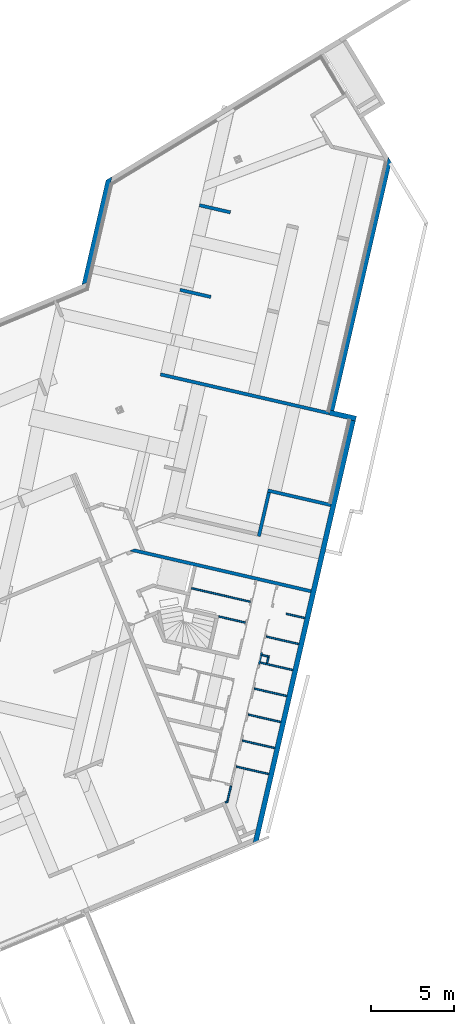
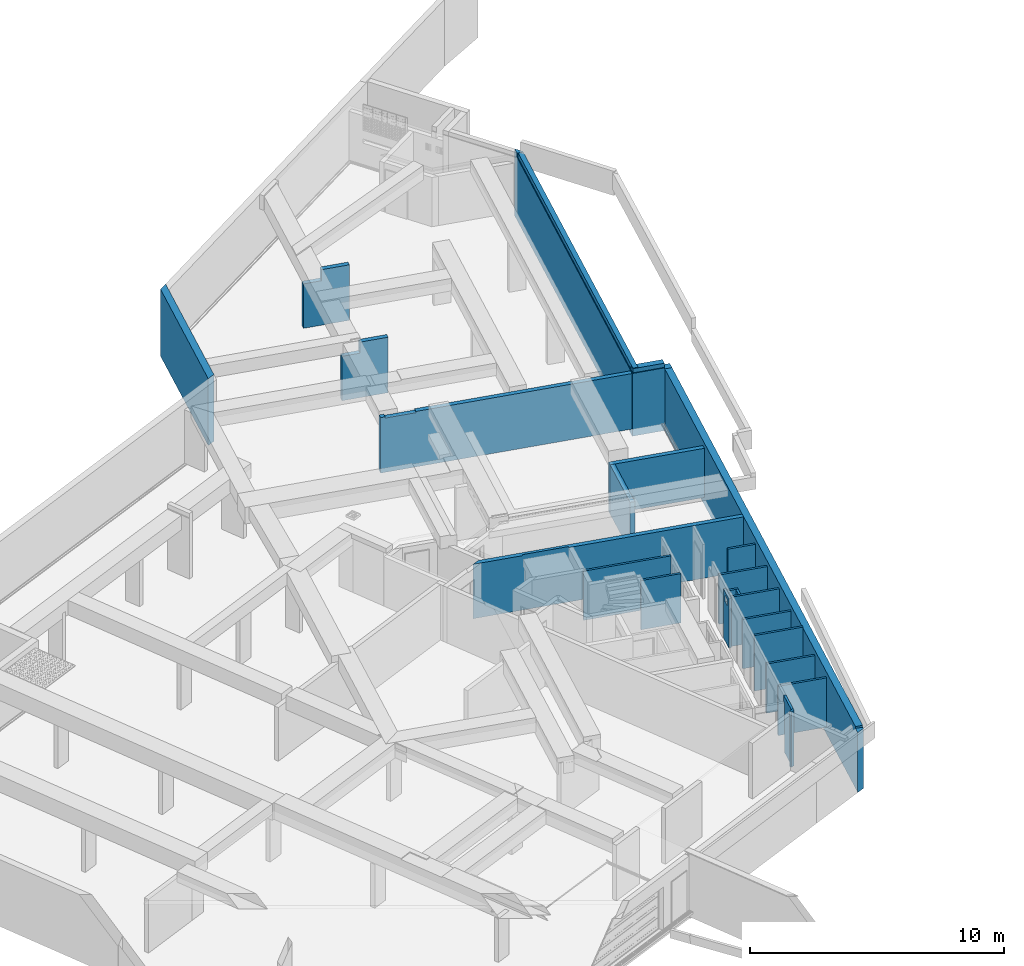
# One storey, part 11 of 20: 24 walls, 1 opening.
"""IFC2X3 building model written with IfcOpenShell, lengths in metres."""

from ifc_helpers import new_model, entity, si_unit, converted_unit, derived_unit, money_unit, direction, frame, origin_with_axes, place, context, subcontext, project, spatial, faceted_brep, material, type_object, element, save


model = new_model("IFC2X3")

# Units and contexts
model_context = context("Model", 3, precision=1e-05, world=origin_with_axes(), true_north=direction((0.0, 1.0)))
body_context = subcontext(model_context, "Body", "Model", "MODEL_VIEW")
ifc_project = project(units=[si_unit("LENGTHUNIT", "METRE"), si_unit("AREAUNIT", "SQUARE_METRE"), si_unit("VOLUMEUNIT", "CUBIC_METRE"), converted_unit("PLANEANGLEUNIT", "DEGREE", entity("IfcPlaneAngleMeasure", 0.0174532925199), si_unit("PLANEANGLEUNIT", "RADIAN"), dimensions=[0, 0, 0, 0, 0, 0, 0]), si_unit("SOLIDANGLEUNIT", "STERADIAN"), money_unit("EUR"), converted_unit("TIMEUNIT", "Year", entity("IfcTimeMeasure", 31556926.0), si_unit("TIMEUNIT", "SECOND"), dimensions=[0, 0, 1, 0, 0, 0, 0]), si_unit("MASSUNIT", "GRAM", prefix="KILO"), si_unit("THERMODYNAMICTEMPERATUREUNIT", "DEGREE_CELSIUS"), si_unit("LUMINOUSINTENSITYUNIT", "LUMEN"), si_unit("ENERGYUNIT", "JOULE", prefix="MEGA"), derived_unit("THERMALCONDUCTANCEUNIT", [(si_unit("POWERUNIT", "WATT"), 1), (si_unit("LENGTHUNIT", "METRE"), -1), (si_unit("THERMODYNAMICTEMPERATUREUNIT", "KELVIN"), -1)]), derived_unit("SPECIFICHEATCAPACITYUNIT", [(si_unit("ENERGYUNIT", "JOULE"), 1), (si_unit("MASSUNIT", "GRAM", prefix="KILO"), -1), (si_unit("THERMODYNAMICTEMPERATUREUNIT", "KELVIN"), -1)]), derived_unit("MASSDENSITYUNIT", [(si_unit("MASSUNIT", "GRAM", prefix="KILO"), 1), (si_unit("VOLUMEUNIT", "CUBIC_METRE"), -1)])], contexts=[model_context])

# Site, building, storey
site_placement = place(None, origin_with_axes())
site = spatial("IfcSite", under=ifc_project, at=site_placement, Name="Site", CompositionType="ELEMENT")
building_placement = place(site_placement, origin_with_axes())
building = spatial("IfcBuilding", under=site, at=building_placement, Name="Bâtiment", CompositionType="ELEMENT")
storey_placement = place(building_placement, frame((0.0, 0.0, -2.9), z_axis=(0.0, 0.0, 1.0), x_axis=(1.0, 0.0, 0.0)))
storey = spatial("IfcBuildingStorey", under=building, at=storey_placement, Name="Sous-sol", CompositionType="ELEMENT", Elevation=-2.9)

# Walls
ifc_material_1 = material(Name="Béton")
wall_type_1 = type_object("IfcWallType", Name="Béton 200", PredefinedType="USERDEFINED")
wall_1_placement = place(storey_placement, frame((-0.376831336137, -6.47894701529, 0.0), z_axis=(0.0, 0.0, 1.0), x_axis=(-0.974387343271, 0.224876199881, 0.0)))
element("IfcWall", 1, at=wall_1_placement, inside=storey, type_object=wall_type_1, material=ifc_material_1, Name="M_Ext-007", ObjectType="SOLIDWALL", context=body_context, shape_type="Brep", body=[
    faceted_brep([(10.8819027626, -0.2, 0.0), (10.8819027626, -0.2, 2.62), (-3.08194358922e-09, -0.2, 2.62), (-3.08194358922e-09, -0.2, 0.0), (11.1620626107, 0.0, 0.0), (11.1620626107, 0.0, 2.62), (7.22196671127, 1.78838543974e-09, 2.62), (-3.08219760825e-09, 0.0, 2.62), (9.12196671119, 0.0, 2.62), (9.12196622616, -0.000959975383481, 2.62), (-3.08219738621e-09, 0.0, 0.0), (9.12196671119, 0.0, 2.67), (7.22196671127, 1.78838543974e-09, 2.67), (9.12196622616, -0.000959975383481, 2.67)], [[[0, 1, 2, 3]], [[4, 5, 1, 0]], [[6, 7, 2, 1, 5, 8, 9]], [[3, 2, 7, 10]], [[4, 0, 3, 10]], [[11, 8, 5, 4, 10, 7, 6, 12]], [[8, 11, 13, 9]], [[9, 13, 12, 6]], [[12, 13, 11]]]),
])
wall_2_placement = place(storey_placement, frame((-2.92712561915, -0.243008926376, 0.0), z_axis=(0.0, 0.0, 1.0), x_axis=(0.974387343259, -0.224876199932, 0.0)))
element("IfcWall", 2, at=wall_2_placement, inside=storey, type_object=wall_type_1, material=ifc_material_1, Name="M_Ext-007", ObjectType="SOLIDWALL", context=body_context, shape_type="Brep", body=[
    faceted_brep([(0.0, 0.0, 2.37), (0.0, -0.2, 2.37), (3.8872885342, -0.2, 2.37), (3.88728853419, 0.0, 2.37), (0.0, 0.0, 0.0), (0.0, -0.2, 0.0), (3.8872885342, -0.2, 0.0), (3.88728853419, 0.0, 0.0)], [[[0, 1, 2, 3]], [[0, 4, 5, 1]], [[1, 5, 6, 2]], [[6, 7, 3, 2]], [[4, 0, 3, 7]], [[5, 4, 7, 6]]]),
])
wall_3_placement = place(storey_placement, frame((-2.92712561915, -0.243008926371, 0.0), z_axis=(0.0, 0.0, 1.0), x_axis=(-0.224876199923, -0.974387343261, 0.0)))
element("IfcWall", 3, at=wall_3_placement, inside=storey, type_object=wall_type_1, material=ifc_material_1, Name="M_Ext-007", ObjectType="SOLIDWALL", context=body_context, shape_type="Brep", body=[
    faceted_brep([(0.200000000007, 0.2, 0.0), (2.89999999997, 0.2, 0.0), (2.89999999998, 0.0, 0.0), (0.200000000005, 0.0, 0.0), (0.200000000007, 0.2, 2.37), (2.89999999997, 0.2, 2.37), (2.89999999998, 0.0, 2.37), (0.200000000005, 0.0, 2.37)], [[[0, 1, 2, 3]], [[4, 5, 1, 0]], [[6, 2, 1, 5]], [[3, 2, 6, 7]], [[7, 4, 0, 3]], [[7, 6, 5, 4]]]),
])
wall_4_placement = place(storey_placement, frame((-8.2314233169, 11.5912253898, 0.0), z_axis=(0.0, 0.0, 1.0), x_axis=(0.974387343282, -0.224876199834, 0.0)))
element("IfcWall", 4, at=wall_4_placement, inside=storey, type_object=wall_type_1, material=ifc_material_1, Name="M_Ext-007", ObjectType="SOLIDWALL", context=body_context, shape_type="Brep", body=[
    faceted_brep([(0.0, 0.2, 0.0), (0.0, 0.2, 2.14), (0.746580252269, 0.2, 2.14), (0.74658024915, 0.2, 2.3), (0.749999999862, 0.2, 2.3), (0.749999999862, 0.2, 2.55), (1.90163599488, 0.2, 2.55), (1.90163599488, 0.2, 0.0), (0.0, 0.0, 0.0), (0.0, 0.0, 2.14), (0.746711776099, 0.0, 2.14), (0.74671177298, 0.0, 2.3), (0.749999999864, 0.0, 2.3), (0.749999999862, 0.199242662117, 2.67), (0.749999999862, 0.199242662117, 2.55), (0.749999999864, 0.0, 2.67), (1.90163599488, 0.0, 0.0), (1.90163599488, 0.2, 2.67), (1.90163599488, 0.0, 2.67)], [[[0, 1, 2, 3, 4, 5, 6, 7]], [[8, 9, 1, 0]], [[10, 2, 1, 9]], [[10, 11, 3, 2]], [[4, 3, 11, 12]], [[13, 14, 5, 4, 12, 15]], [[6, 5, 14]], [[16, 7, 6, 17, 18]], [[16, 8, 0, 7]], [[11, 10, 9, 8, 16, 18, 15, 12]], [[6, 14, 13, 17]], [[17, 13, 15, 18]]]),
])
wall_5_placement = place(storey_placement, frame((-7.06056441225, 16.6645506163, 0.0), z_axis=(0.0, 0.0, 1.0), x_axis=(0.974387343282, -0.224876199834, 0.0)))
element("IfcWall", 5, at=wall_5_placement, inside=storey, type_object=wall_type_1, material=ifc_material_1, Name="M_Ext-007", ObjectType="SOLIDWALL", context=body_context, shape_type="Brep", body=[
    faceted_brep([(0.0, 0.2, 0.0), (0.0, 0.2, 2.14), (0.743156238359, 0.2, 2.14), (0.743156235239, 0.2, 2.67), (0.743160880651, 0.2, 2.55), (1.90163599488, 0.2, 2.55), (1.90163599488, 0.2, 0.0), (0.0, 0.0, 0.0), (0.0, 0.0, 2.14), (0.743287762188, 0.0, 2.14), (0.743287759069, 0.0, 2.67), (0.743156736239, 0.199238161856, 2.67), (0.743156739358, 0.199238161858, 2.55), (1.90163599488, 0.2, 2.67), (1.90163599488, 0.0, 2.67), (1.90163599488, 0.0, 0.0)], [[[0, 1, 2, 3, 4, 5, 6]], [[7, 8, 1, 0]], [[9, 2, 1, 8]], [[10, 11, 3, 2, 9]], [[4, 3, 11, 12]], [[12, 5, 4]], [[13, 14, 15, 6, 5]], [[0, 6, 15, 7]], [[10, 9, 8, 7, 15, 14]], [[13, 11, 10, 14]], [[11, 13, 5, 12]]]),
])
wall_6_placement = place(storey_placement, frame((-9.40085102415, 6.52410153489, 0.0), z_axis=(0.0, 0.0, 1.0), x_axis=(0.974388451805, -0.224871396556, 0.0)))
element("IfcWall", 6, at=wall_6_placement, inside=storey, type_object=wall_type_1, material=ifc_material_1, Name="M_Ext-007", ObjectType="SOLIDWALL", context=body_context, shape_type="Brep", body=[
    faceted_brep([(8.47811900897, 0.2, 2.55), (8.47811900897, 0.2, 2.3), (9.17811900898, 0.2, 2.3), (9.17811900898, 0.2, 2.67), (10.373078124, 0.2, 2.67), (10.373078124, 0.2, 0.0), (0.0, 0.2, 0.0), (9.04829104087e-07, 0.200000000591, 2.14), (0.377833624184, 0.2, 2.14), (0.377833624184, 0.2, 2.61), (1.4616061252, 0.2, 2.61), (1.4616061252, 0.2, 2.67), (4.92196615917, 0.2, 2.67), (4.92196615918, 0.2, 2.55), (5.37718628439, 0.2, 2.55), (5.37718628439, 0.2, 2.2), (6.0771862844, 0.2, 2.2), (6.0771862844, 0.2, 2.55), (8.47811900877, 0.199958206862, 2.3), (8.47811900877, 0.199958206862, 2.55), (9.17811900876, 0.19995475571, 2.3), (9.17811900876, 0.19995475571, 2.67), (8.47811900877, 0.199958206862, 2.67), (6.07718628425, 0.199970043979, 2.67), (5.37718628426, 0.199973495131, 2.67), (1.46150408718, 0.0, 2.67), (10.373078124, 0.0, 2.67), (10.373078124, 0.0, 0.0), (0.0, 0.0, 0.0), (0.0, 0.0, 2.67), (9.04829104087e-07, 0.200000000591, 2.67), (1.06578756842e-06, 0.199753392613, 2.14), (1.06578756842e-06, 0.199753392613, 2.67), (0.190000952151, 0.199877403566, 2.67), (0.190000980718, 0.199877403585, 2.61), (0.18999999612, 0.0, 2.61), (1.46150408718, 0.0, 2.61), (5.37718628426, 0.199973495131, 2.55), (5.37718628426, 0.199973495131, 2.2), (6.07718628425, 0.199970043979, 2.2), (6.07718628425, 0.199970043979, 2.55), (0.189999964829, 0.0, 2.67)], [[[0, 1, 2, 3, 4, 5, 6, 7, 8, 9, 10, 11, 12, 13, 14, 15, 16, 17]], [[18, 1, 0, 19]], [[20, 2, 1, 18]], [[20, 21, 3, 2]], [[3, 21, 22, 23, 24, 12, 11, 25, 26, 4]], [[4, 26, 27, 5]], [[27, 28, 6, 5]], [[6, 28, 29, 30, 7]], [[8, 7, 31]], [[31, 32, 33, 34, 9, 8]], [[35, 36, 10, 9, 34]], [[10, 36, 25, 11]], [[13, 12, 24, 37]], [[14, 13, 37]], [[37, 38, 15, 14]], [[38, 39, 16, 15]], [[16, 39, 40, 17]], [[40, 19, 0, 17]], [[23, 22, 21, 20, 18, 19, 40, 39, 38, 37, 24]], [[29, 28, 27, 26, 25, 36, 35, 41]], [[29, 41, 33, 32, 30]], [[30, 32, 31, 7]], [[33, 41, 35, 34]]]),
])
wall_type_2 = type_object("IfcWallType", Name="Béton 250", PredefinedType="USERDEFINED")
wall_7_placement = place(storey_placement, frame((4.1967963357, 19.2964188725, -0.35), z_axis=(0.0, 0.0, 1.0), x_axis=(-0.224876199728, -0.974387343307, 0.0)))
element("IfcWall", 7, at=wall_7_placement, inside=storey, type_object=wall_type_2, material=ifc_material_1, Name="Voile projeté béton par passes alternées", ObjectType="SOLIDWALL", context=body_context, shape_type="Brep", body=[
    faceted_brep([(0.0, 0.0350000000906, 3.25), (15.4679716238, 0.0349999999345, 3.25), (15.4679716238, 0.25, 3.25), (0.0, 0.25, 3.25), (15.2029716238, 0.0349999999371, 3.22), (15.4679716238, 0.0349999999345, 3.22), (0.0, 0.0350000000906, 3.22), (-0.0356879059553, 0.035000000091, 3.22), (-0.0356879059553, 0.035000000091, 3.02), (15.2029716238, 0.0349999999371, 3.02), (15.4679716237, 0.25, 3.22), (15.2029716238, 0.25, 3.22), (15.2029716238, 0.25, 0.0), (-0.101734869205, 0.25, 0.0), (-0.101734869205, 0.25, 3.22), (0.0, 0.25, 3.22), (-0.0710988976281, 0.0, 3.22), (-0.358038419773, 0.0, 3.22), (-0.0710988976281, 0.0, 3.02), (15.2029716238, 0.0, 3.02), (15.2029716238, 0.0, 0.0), (-0.358038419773, 0.0, 0.0)], [[[0, 1, 2, 3]], [[4, 5, 1, 0, 6, 7, 8, 9]], [[5, 10, 2, 1]], [[3, 2, 10, 11, 12, 13, 14, 15]], [[15, 6, 0, 3]], [[11, 10, 5, 4]], [[16, 7, 6, 15, 14, 17]], [[7, 16, 18, 8]], [[8, 18, 19, 9]], [[4, 9, 19, 20, 12, 11]], [[21, 13, 12, 20]], [[14, 13, 21, 17]], [[19, 18, 16, 17, 21, 20]]]),
])
ifc_material_2 = material(Name="Parpaing 10cm")
wall_type_3 = type_object("IfcWallType", Name="Parpaing 10cm 100", PredefinedType="USERDEFINED")
wall_8_placement = place(storey_placement, frame((-3.50245051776, -10.6837662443, 0.0), z_axis=(0.0, 0.0, 1.0), x_axis=(0.974387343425, -0.224876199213, 0.0)))
element("IfcWall", 8, at=wall_8_placement, inside=storey, type_object=wall_type_3, material=ifc_material_2, Name="Parpaing 10x50x20", ObjectType="PARTITIONING", context=body_context, shape_type="Brep", body=[
    faceted_brep([(2.10000000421, 0.1, 2.37), (2.10000000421, 0.1, 0.0), (0.0999999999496, 0.1, 0.0), (0.0999999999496, 0.1, 2.37), (2.10000000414, 0.0, 2.37), (2.10000000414, 0.0, 0.0), (0.0999999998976, 0.0, 0.0), (0.0999999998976, 0.0, 2.37)], [[[0, 1, 2, 3]], [[4, 5, 1, 0]], [[1, 5, 6, 2]], [[2, 6, 7, 3]], [[4, 0, 3, 7]], [[5, 4, 7, 6]]]),
])
wall_9_placement = place(storey_placement, frame((-6.06674905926, -7.80063914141, 0.0), z_axis=(0.0, 0.0, 1.0), x_axis=(0.974387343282, -0.224876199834, 0.0)))
element("IfcWall", 9, at=wall_9_placement, inside=storey, type_object=wall_type_3, material=ifc_material_2, Name="Parpaing 10x50x20", ObjectType="PARTITIONING", context=body_context, shape_type="Brep", body=[
    faceted_brep([(1.83696671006, 0.0, 2.37), (1.83696671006, 0.0, 0.0), (0.2, 0.0, 0.0), (0.2, 0.0, 2.37), (1.8369667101, -0.1, 2.37), (1.8369667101, -0.1, 0.0), (0.2, -0.1, 0.0), (0.2, -0.1, 2.37)], [[[0, 1, 2, 3]], [[4, 5, 1, 0]], [[1, 5, 6, 2]], [[2, 6, 7, 3]], [[4, 0, 3, 7]], [[5, 4, 7, 6]]]),
])
wall_10_placement = place(storey_placement, frame((-5.51181280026, -19.0058905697, 0.0), z_axis=(0.0, 0.0, 1.0), x_axis=(0.923701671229, 0.383112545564, 0.0)))
element("IfcWall", 10, at=wall_10_placement, inside=storey, type_object=wall_type_3, material=ifc_material_2, Name="Parpaing 10x50x20", ObjectType="PARTITIONING", context=body_context, shape_type="Brep", body=[
    faceted_brep([(0.0, 0.0, 0.0), (0.0, 0.0, 2.67), (0.106217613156, 0.0, 2.67), (0.229084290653, 0.0, 2.67), (0.229084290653, 0.0, 0.0), (0.0, -0.1, 0.0), (0.0, -0.1, 2.67), (0.106217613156, -0.1, 2.67), (0.157696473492, -0.1, 2.67), (0.157696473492, -0.1, 0.0)], [[[0, 1, 2, 3, 4]], [[5, 6, 1, 0]], [[1, 6, 7, 8, 3, 2]], [[8, 9, 4, 3]], [[4, 9, 5, 0]], [[8, 7, 6, 5, 9]]]),
])
wall_11_placement = place(storey_placement, frame((-3.37621303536, -10.136779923, 0.0), z_axis=(0.0, 0.0, 1.0), x_axis=(0.974387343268, -0.224876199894, 0.0)))
element("IfcWall", 11, at=wall_11_placement, inside=storey, type_object=wall_type_3, material=ifc_material_2, Name="Parpaing 10x50x20", ObjectType="PARTITIONING", context=body_context, shape_type="Brep", body=[
    faceted_brep([(0.099999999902, 0.0, 2.37), (0.0999999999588, -0.1, 2.37), (0.549427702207, -0.1, 2.37), (0.549427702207, 0.0, 2.37), (0.099999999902, 0.0, 0.0), (0.0999999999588, -0.1, 0.0), (0.549427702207, -0.1, 0.0), (0.549427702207, 0.0, 0.0)], [[[0, 1, 2, 3]], [[0, 4, 5, 1]], [[1, 5, 6, 2]], [[6, 7, 3, 2]], [[4, 0, 3, 7]], [[5, 4, 7, 6]]]),
])
wall_12_placement = place(storey_placement, frame((-5.17777820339, -17.9429519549, 0.0), z_axis=(0.0, 0.0, 1.0), x_axis=(-0.224876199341, -0.974387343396, 0.0)))
element("IfcWall", 12, at=wall_12_placement, inside=storey, type_object=wall_type_3, material=ifc_material_2, Name="Parpaing 10x50x20", ObjectType="PARTITIONING", context=body_context, shape_type="Brep", body=[
    faceted_brep([(0.977728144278, 0.1, 2.67), (0.977728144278, 0.1, 0.0), (0.0999999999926, 0.1, 0.0), (0.0999999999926, 0.1, 2.37), (0.0, 0.1, 2.37), (0.0, 0.1, 2.67), (1.04911596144, 0.0, 2.67), (1.04911596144, 0.0, 0.0), (0.1, 0.0, 0.0), (0.1, 0.0, 2.37), (0.0, 0.0, 2.37), (0.0, 0.0, 2.67)], [[[0, 1, 2, 3, 4, 5]], [[6, 7, 1, 0]], [[1, 7, 8, 2]], [[8, 9, 3, 2]], [[3, 9, 10, 4]], [[11, 5, 4, 10]], [[11, 6, 0, 5]], [[11, 10, 9, 8, 7, 6]]]),
])
wall_13_placement = place(storey_placement, frame((-4.94165819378, -16.919845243, 0.0), z_axis=(0.0, 0.0, 1.0), x_axis=(0.974387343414, -0.224876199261, 0.0)))
element("IfcWall", 13, at=wall_13_placement, inside=storey, type_object=wall_type_3, material=ifc_material_2, Name="Parpaing 10x50x20", ObjectType="PARTITIONING", context=body_context, shape_type="Brep", body=[
    faceted_brep([(0.100000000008, 0.1, 0.0), (2.10000000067, 0.1, 0.0), (2.1000000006, 0.0, 0.0), (0.1, 0.0, 0.0), (0.100000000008, 0.1, 2.37), (2.10000000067, 0.1, 2.37), (2.1000000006, 0.0, 2.37), (0.1, 0.0, 2.37)], [[[0, 1, 2, 3]], [[4, 5, 1, 0]], [[6, 2, 1, 5]], [[3, 2, 6, 7]], [[7, 4, 0, 3]], [[7, 6, 5, 4]]]),
])
wall_14_placement = place(storey_placement, frame((-4.58185627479, -15.3608254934, 0.0), z_axis=(0.0, 0.0, 1.0), x_axis=(0.974387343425, -0.224876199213, 0.0)))
element("IfcWall", 14, at=wall_14_placement, inside=storey, type_object=wall_type_3, material=ifc_material_2, Name="Parpaing 10x50x20", ObjectType="PARTITIONING", context=body_context, shape_type="Brep", body=[
    faceted_brep([(0.100000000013, 0.1, 0.0), (2.10000000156, 0.1, 0.0), (2.10000000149, 0.0, 0.0), (0.1, 0.0, 0.0), (0.100000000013, 0.1, 2.37), (2.10000000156, 0.1, 2.37), (2.10000000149, 0.0, 2.37), (0.1, 0.0, 2.37)], [[[0, 1, 2, 3]], [[4, 5, 1, 0]], [[6, 2, 1, 5]], [[3, 2, 6, 7]], [[7, 4, 0, 3]], [[7, 6, 5, 4]]]),
])
wall_15_placement = place(storey_placement, frame((-4.2220543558, -13.8018057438, 0.0), z_axis=(0.0, 0.0, 1.0), x_axis=(0.974387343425, -0.224876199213, 0.0)))
element("IfcWall", 15, at=wall_15_placement, inside=storey, type_object=wall_type_3, material=ifc_material_2, Name="Parpaing 10x50x20", ObjectType="PARTITIONING", context=body_context, shape_type="Brep", body=[
    faceted_brep([(2.10000000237, 0.1, 2.67), (2.10000000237, 0.0, 2.67), (2.10000000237, 0.0, 2.62), (2.10000000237, 0.0, 0.0), (2.10000000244, 0.1, 0.0), (2.10000000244, 0.1, 2.62), (0.100000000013, 0.1, 2.67), (0.1, 0.0, 2.67), (0.1, 0.0, 0.0), (0.100000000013, 0.1, 0.0)], [[[0, 1, 2, 3, 4, 5]], [[0, 6, 7, 1]], [[7, 8, 3, 2, 1]], [[8, 9, 4, 3]], [[6, 0, 5, 4, 9]], [[8, 7, 6, 9]]]),
])
wall_16_placement = place(storey_placement, frame((-3.86225243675, -12.2427859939, 0.0), z_axis=(0.0, 0.0, 1.0), x_axis=(0.974387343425, -0.224876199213, 0.0)))
element("IfcWall", 16, at=wall_16_placement, inside=storey, type_object=wall_type_3, material=ifc_material_2, Name="Parpaing 10x50x20", ObjectType="PARTITIONING", context=body_context, shape_type="Brep", body=[
    faceted_brep([(0.100000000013, 0.1, 0.0), (2.10000000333, 0.1, 0.0), (2.10000000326, 0.0, 0.0), (0.1, 0.0, 0.0), (0.100000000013, 0.1, 2.37), (2.10000000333, 0.1, 2.37), (2.10000000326, 0.0, 2.37), (0.1, 0.0, 2.37)], [[[0, 1, 2, 3]], [[4, 5, 1, 0]], [[6, 2, 1, 5]], [[3, 2, 6, 7]], [[7, 4, 0, 3]], [[7, 6, 5, 4]]]),
])
wall_17_placement = place(storey_placement, frame((-7.70249417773, -6.10570361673, 0.0), z_axis=(0.0, 0.0, 1.0), x_axis=(0.974387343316, -0.224876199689, 0.0)))
element("IfcWall", 17, at=wall_17_placement, inside=storey, type_object=wall_type_3, material=ifc_material_2, Name="Parpaing 10x50x20", ObjectType="PARTITIONING", context=body_context, shape_type="Brep", body=[
    faceted_brep([(0.2, -0.1, 2.37), (3.81196670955, -0.1, 2.37), (3.81196670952, 0.0, 2.37), (0.2, 0.0, 2.37), (0.2, -0.1, 0.0), (3.81196670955, -0.1, 0.0), (3.81196670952, 0.0, 0.0), (0.2, 0.0, 0.0)], [[[0, 1, 2, 3]], [[4, 5, 1, 0]], [[6, 2, 1, 5]], [[3, 2, 6, 7]], [[7, 4, 0, 3]], [[7, 6, 5, 4]]]),
])
wall_18_placement = place(storey_placement, frame((-3.14264859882, -9.12474649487, 0.0), z_axis=(0.0, 0.0, 1.0), x_axis=(0.974387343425, -0.224876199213, 0.0)))
element("IfcWall", 18, at=wall_18_placement, inside=storey, type_object=wall_type_3, material=ifc_material_2, Name="Parpaing 10x50x20", ObjectType="PARTITIONING", context=body_context, shape_type="Brep", body=[
    faceted_brep([(0.100000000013, 0.1, 0.0), (2.1000000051, 0.1, 0.0), (2.10000000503, 0.0, 0.0), (0.1, 0.0, 0.0), (0.100000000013, 0.1, 2.37), (2.1000000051, 0.1, 2.37), (2.10000000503, 0.0, 2.37), (0.1, 0.0, 2.37)], [[[0, 1, 2, 3]], [[4, 5, 1, 0]], [[6, 2, 1, 5]], [[3, 2, 6, 7]], [[7, 4, 0, 3]], [[7, 6, 5, 4]]]),
])
wall_19_placement = place(storey_placement, frame((-2.7828466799, -7.56572674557, 0.0), z_axis=(0.0, 0.0, 1.0), x_axis=(0.974387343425, -0.224876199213, 0.0)))
element("IfcWall", 19, at=wall_19_placement, inside=storey, type_object=wall_type_3, material=ifc_material_2, Name="Parpaing 10x50x20", ObjectType="PARTITIONING", context=body_context, shape_type="Brep", body=[
    faceted_brep([(2.10000000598, 0.1, 0.0), (0.955060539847, 0.1, 0.0), (0.955060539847, 0.1, 2.37), (2.10000000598, 0.1, 2.37), (2.10000000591, 0.0, 0.0), (0.955060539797, 0.0, 0.0), (0.955060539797, 0.0, 2.37), (2.10000000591, 0.0, 2.37)], [[[0, 1, 2, 3]], [[4, 5, 1, 0]], [[5, 6, 2, 1]], [[3, 2, 6, 7]], [[7, 4, 0, 3]], [[7, 6, 5, 4]]]),
])
wall_20_placement = place(storey_placement, frame((-2.84085763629, -10.2603331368, 0.0), z_axis=(0.0, 0.0, 1.0), x_axis=(-0.224876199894, -0.974387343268, 0.0)))
element("IfcWall", 20, at=wall_20_placement, inside=storey, type_object=wall_type_3, material=ifc_material_2, Name="Parpaing 10x50x20", ObjectType="PARTITIONING", context=body_context, shape_type="Brep", body=[
    faceted_brep([(0.1, 0.0, 2.37), (0.1, -0.1, 2.37), (0.461364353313, -0.1, 2.37), (0.461364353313, 0.0, 2.37), (0.1, 0.0, 0.0), (0.1, -0.1, 0.0), (0.461364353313, -0.1, 0.0), (0.461364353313, 0.0, 0.0)], [[[0, 1, 2, 3]], [[4, 5, 1, 0]], [[1, 5, 6, 2]], [[7, 3, 2, 6]], [[4, 0, 3, 7]], [[5, 4, 7, 6]]]),
])
wall_type_4 = type_object("IfcWallType", Name="Béton 300", PredefinedType="USERDEFINED")
wall_21_placement = place(storey_placement, frame((2.01601304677, 3.88923458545, -0.35), z_axis=(0.0, 0.0, 1.0), x_axis=(-0.22487619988, -0.974387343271, 0.0)))
element("IfcWall", 21, at=wall_21_placement, inside=storey, type_object=wall_type_4, material=ifc_material_1, Name="Voile projeté béton par passes alternées", ObjectType="SOLIDWALL", context=body_context, shape_type="Brep", body=[
    faceted_brep([(25.7150874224, 0.3, 2.88), (25.7150874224, 0.0, 2.88), (26.0222541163, 0.0, 2.88), (25.8080906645, 0.3, 2.88), (25.7150874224, 0.0, 2.97), (25.7150874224, 0.3, 2.97), (0.0, 0.0, 2.97), (0.0, 0.0, 0.0), (26.0222541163, 0.0, 0.0), (25.8080906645, 0.3, 0.0), (0.0, 0.3, 0.0), (0.0, 0.3, 2.97)], [[[0, 1, 2, 3]], [[4, 1, 0, 5]], [[6, 7, 8, 2, 1, 4]], [[2, 8, 9, 3]], [[5, 0, 3, 9, 10, 11]], [[11, 6, 4, 5]], [[6, 11, 10, 7]], [[7, 10, 9, 8]]]),
])
wall_22_placement = place(storey_placement, frame((0.710546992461, 4.19051953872, -0.35), z_axis=(0.0, 0.0, 1.0), x_axis=(0.974387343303, -0.224876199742, 0.0)))
element("IfcWall", 22, at=wall_22_placement, inside=storey, type_object=wall_type_4, material=ifc_material_1, Name="Voile projeté béton par passes alternées", ObjectType="SOLIDWALL", context=body_context, shape_type="Brep", body=[
    faceted_brep([(1.33978141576, 0.3, 3.22), (0.0349999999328, 0.3, 3.22), (0.034999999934, 0.035, 3.22), (1.33978141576, 0.0350000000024, 3.22), (0.0, 0.3, 3.02), (0.0349999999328, 0.3, 3.02), (1.33978141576, 0.3, 2.97), (1.63978141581, 0.3, 2.97), (1.63978141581, 0.3, 0.0), (0.0, 0.3, 0.0), (0.034999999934, 0.035, 3.02), (1.33978141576, 0.035, 3.02), (1.33978141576, 0.0, 3.02), (1.33978141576, 0.0, 2.97), (0.0, 0.0, 3.02), (1.63978141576, 0.0, 2.97), (1.63978141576, 0.0, 0.0), (0.0, 0.0, 0.0)], [[[0, 1, 2, 3]], [[4, 5, 1, 0, 6, 7, 8, 9]], [[10, 2, 1, 5]], [[10, 11, 3, 2]], [[3, 11, 12, 13, 6, 0]], [[14, 12, 11, 10, 5, 4]], [[6, 13, 15, 7]], [[15, 16, 8, 7]], [[17, 9, 8, 16]], [[17, 14, 4, 9]], [[13, 12, 14, 17, 16, 15]]]),
])
wall_23_placement = place(storey_placement, frame((-13.8328311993, 11.7782574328, -0.35), z_axis=(0.0, 0.0, 1.0), x_axis=(0.224876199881, 0.974387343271, 0.0)))
element("IfcWall", 23, at=wall_23_placement, inside=storey, type_object=wall_type_4, material=ifc_material_1, Name="Voile projeté béton par passes alternées", ObjectType="SOLIDWALL", context=body_context, shape_type="Brep", body=[
    faceted_brep([(0.36860035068, 0.0, 0.0), (0.154436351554, 0.3, 0.0), (6.57845197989, 0.3, 0.0), (6.87107375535, 0.0, 0.0), (0.36860035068, 0.0, 3.22), (0.154436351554, 0.3, 3.22), (6.57845197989, 0.3, 3.22), (6.87107375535, 0.0, 3.22)], [[[0, 1, 2, 3]], [[0, 4, 5, 1]], [[1, 5, 6, 2]], [[6, 7, 3, 2]], [[4, 0, 3, 7]], [[5, 4, 7, 6]]]),
])

# Wall, opening
wall_type_5 = type_object("IfcWallType", Name="Béton 100", PredefinedType="USERDEFINED")
wall_24_placement = place(storey_placement, frame((-3.51931623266, -10.7568452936, 0.0), z_axis=(0.0, 0.0, 1.0), x_axis=(0.224876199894, 0.974387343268, 0.0)))
wall_24 = element("IfcWall", 24, at=wall_24_placement, inside=storey, type_object=wall_type_5, material=ifc_material_1, Name="M_Ext-009", ObjectType="PARTITIONING", context=body_context, shape_type="Brep", body=[
    faceted_brep([(0.0, 0.0, 2.37), (0.736364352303, 0.0, 2.37), (0.736364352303, 0.0, 0.0), (0.0, 0.0, 0.0), (0.494926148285, 0.0, 1.9), (0.494926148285, 0.0, 2.2), (0.194926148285, 0.0, 2.2), (0.194926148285, 0.0, 1.9), (0.0, -0.1, 2.37), (0.736364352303, -0.1, 2.37), (0.736364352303, -0.1, 0.0), (0.0, -0.1, 0.0), (0.494926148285, -0.1, 2.2), (0.494926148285, -0.1, 1.9), (0.194926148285, -0.1, 2.2), (0.194926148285, -0.1, 1.9)], [[[0, 1, 2, 3], [4, 5, 6, 7]], [[8, 9, 1, 0]], [[1, 9, 10, 2]], [[3, 2, 10, 11]], [[11, 8, 0, 3]], [[12, 5, 4, 13]], [[14, 6, 5, 12]], [[15, 7, 6, 14]], [[13, 4, 7, 15]], [[11, 10, 9, 8], [14, 12, 13, 15]]]),
])
opening_placement = place(wall_24_placement, frame((11.2727443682, -1.01021870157, 2.9), z_axis=(0.0, 0.0, 1.0), x_axis=(0.224876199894, -0.974387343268, 0.0)))
element("IfcOpeningElement", 25, at=opening_placement, cuts=wall_24, Name="PERCEMENT-002", context=body_context, shape_type="Brep", body=[
    faceted_brep([(-3.03823236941, -10.6678233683, -1.0), (-3.03823236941, -10.6678233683, -0.7), (-3.75985816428, -10.5012813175, -0.7), (-3.75985816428, -10.5012813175, -1.0), (-3.03823236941, -10.3599375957, -1.0), (-3.03823236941, -10.3599375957, -0.7), (-3.75985816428, -10.1933955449, -0.7), (-3.75985816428, -10.1933955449, -1.0)], [[[0, 1, 2, 3]], [[0, 4, 5, 1]], [[1, 5, 6, 2]], [[3, 2, 6, 7]], [[4, 0, 3, 7]], [[5, 4, 7, 6]]]),
])

save(model, "model.ifc")
